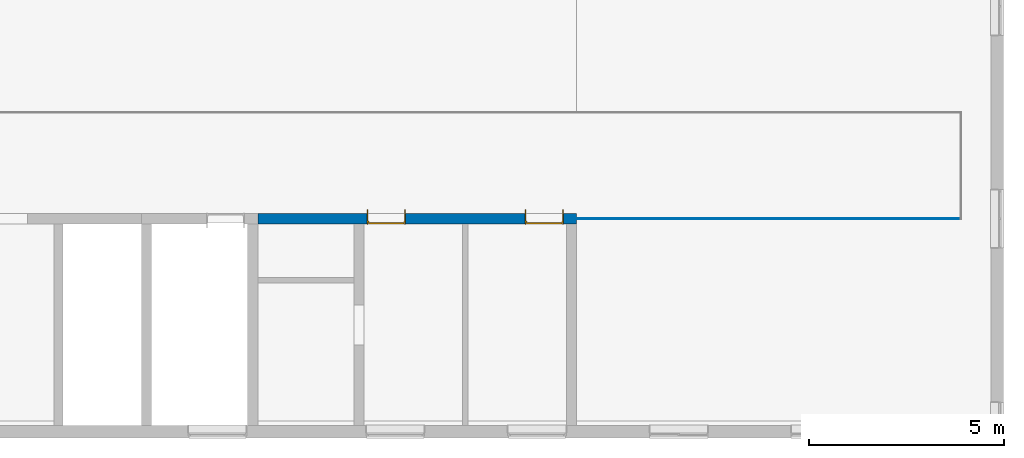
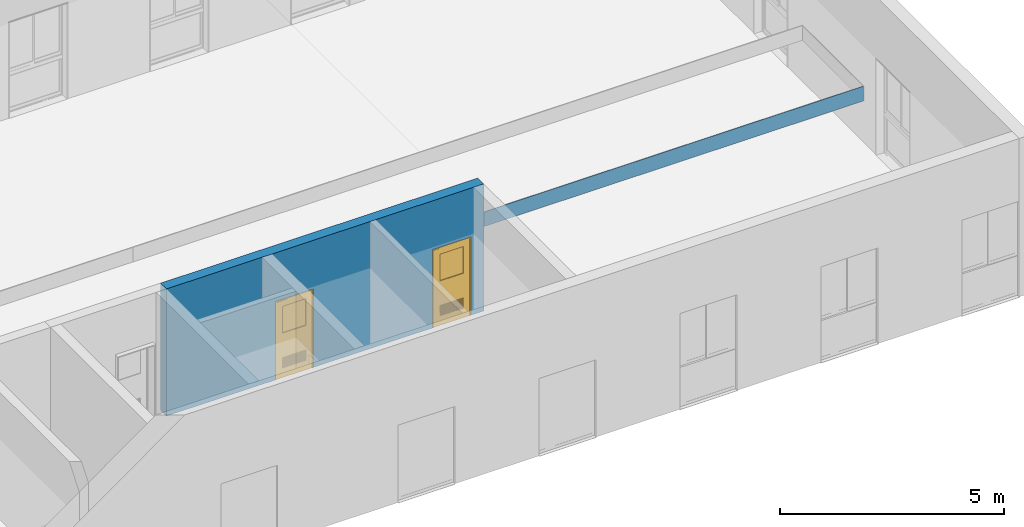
# One storey, part 9 of 11: 2 doors, 2 walls, 2 openings.
"""IFC4X3 building model written with IfcOpenShell, lengths in millimetres."""

import ifcopenshell
import ifcopenshell.guid

model = None  # the IFC model being written
_history = None  # IfcOwnerHistory: only IFC2X3 demands one
_inside = {}  # id of a spatial element -> (the spatial element, [elements in it])
_under = {}  # id of a project, library or spatial element -> (it, [spatial elements below it])
_declared = {}  # id of a project -> (the project, [libraries it declares])
_typed = {}  # id of a type object -> (the type object, [elements of that type])
_made_of = {}  # id of a material, layer set ... -> (it, [elements and type objects made of it])


def new_model(schema):
    """Start an empty IFC model of exactly this schema.

    Asked for "IFC4X3", IfcOpenShell would pick the latest addendum, in which some entities
    have other attributes; the version numbers below select the first issue.
    IFC2X3 requires an IfcOwnerHistory on every rooted entity: one is made here for all.
    """
    global model, _history
    if schema == "IFC4X3":
        model = ifcopenshell.file(schema_version=(4, 3, 0, 0))
    else:
        model = ifcopenshell.file(schema=schema)
    _inside.clear()
    _under.clear()
    _declared.clear()
    _typed.clear()
    _made_of.clear()
    _history = None
    if model.schema == "IFC2X3":
        org = make("IfcOrganization", Name="unknown")
        user = make(
            "IfcPersonAndOrganization",
            ThePerson=make("IfcPerson", FamilyName="unknown"),
            TheOrganization=org,
        )
        app = make(
            "IfcApplication",
            ApplicationDeveloper=org,
            Version="unknown",
            ApplicationFullName="unknown",
            ApplicationIdentifier="unknown",
        )
        _history = make(
            "IfcOwnerHistory",
            OwningUser=user,
            OwningApplication=app,
            ChangeAction="ADDED",
            CreationDate=0,
        )
    return model


def make(cls, **values):
    """One entity of the class cls with the attributes given. An attribute that is None is left unset."""
    return model.create_entity(
        cls, **{name: value for name, value in values.items() if value is not None}
    )


def entity(cls, *values):
    """Any entity or typed value of the class cls, its attributes in the order of the schema. None: left unset."""
    e = model.create_entity(cls)
    for i, value in enumerate(values):
        if value is not None:
            e[i] = value
    return e


def rooted(cls, **values):
    """An entity with a GlobalId (a new one), such as an element, a storey or a relation."""
    return make(cls, GlobalId=ifcopenshell.guid.new(), OwnerHistory=_history, **values)


def si_unit(unit_type, name, prefix=None):
    """IfcSIUnit, for example si_unit("LENGTHUNIT", "METRE", prefix="MILLI")."""
    return make("IfcSIUnit", UnitType=unit_type, Prefix=prefix, Name=name)


def converted_unit(unit_type, name, factor, base, dimensions=None, offset=None):
    """IfcConversionBasedUnit, such as the inch: factor (a typed value) times the base unit."""
    return make(
        "IfcConversionBasedUnit"
        if offset is None
        else "IfcConversionBasedUnitWithOffset",
        ConversionOffset=offset,
        Dimensions=None
        if dimensions is None
        else entity("IfcDimensionalExponents", *dimensions),
        UnitType=unit_type,
        Name=name,
        ConversionFactor=make(
            "IfcMeasureWithUnit", ValueComponent=factor, UnitComponent=base
        ),
    )


def derived_unit(unit_type, elements):
    """IfcDerivedUnit: a product of units, each with its exponent."""
    return make(
        "IfcDerivedUnit",
        Elements=[
            make("IfcDerivedUnitElement", Unit=unit, Exponent=power)
            for unit, power in elements
        ],
        UnitType=unit_type,
    )


def assignment(units):
    """IfcUnitAssignment: the units of a project."""
    return None if units is None else make("IfcUnitAssignment", Units=units)


def point(xyz):
    """IfcCartesianPoint."""
    return None if xyz is None else make("IfcCartesianPoint", Coordinates=xyz)


def direction(xyz):
    """IfcDirection."""
    return None if xyz is None else make("IfcDirection", DirectionRatios=xyz)


def frame(location, z_axis=None, x_axis=None):
    """IfcAxis2Placement3D, a coordinate frame: its origin and axes. An axis left out is left unset."""
    return make(
        "IfcAxis2Placement3D",
        Location=point(location),
        Axis=direction(z_axis),
        RefDirection=direction(x_axis),
    )


def frame_2d(location, x_axis=None):
    """IfcAxis2Placement2D, a coordinate frame in the plane: its origin and x axis."""
    return make(
        "IfcAxis2Placement2D", Location=point(location), RefDirection=direction(x_axis)
    )


def origin():
    """The frame at (0, 0, 0) with its axes left unset."""
    return frame((0.0, 0.0, 0.0))


def place(relative_to, where):
    """IfcLocalPlacement: puts the frame where relative to a parent placement (None: the world)."""
    return make(
        "IfcLocalPlacement", PlacementRelTo=relative_to, RelativePlacement=where
    )


def context(
    kind, dimensions, precision=None, world=None, true_north=None, identifier=None
):
    """IfcGeometricRepresentationContext, for example the 3D "Model" context."""
    return make(
        "IfcGeometricRepresentationContext",
        ContextIdentifier=identifier,
        ContextType=kind,
        CoordinateSpaceDimension=dimensions,
        Precision=precision,
        WorldCoordinateSystem=world,
        TrueNorth=true_north,
    )


def subcontext(parent, identifier, kind, view, scale=None):
    """IfcGeometricRepresentationSubContext, for example "Body" below "Model"."""
    return make(
        "IfcGeometricRepresentationSubContext",
        ContextIdentifier=identifier,
        ContextType=kind,
        ParentContext=parent,
        TargetScale=scale,
        TargetView=view,
    )


def project(units=None, contexts=None):
    """IfcProject with its units and contexts."""
    return rooted(
        "IfcProject",
        Name="project",
        RepresentationContexts=contexts,
        UnitsInContext=assignment(units),
    )


def spatial(cls, under=None, at=None, **own):
    """A site, building, storey or space (cls), placed at a placement, below another one or the project."""
    s = rooted(cls, ObjectPlacement=at, **own)
    if under is not None:
        _under.setdefault(under.id(), (under, []))[1].append(s)
    return s


def profile(cls, at=None, kind="AREA", **sizes):
    """A parametric profile (cls). Its sizes go by their IFC names, for example OverallWidth=200.0."""
    return make(cls, ProfileType=kind, Position=at, **sizes)


def rectangle(**sizes):
    """IfcRectangleProfileDef."""
    return profile("IfcRectangleProfileDef", **sizes)


def extrude(swept, where, along, depth):
    """IfcExtrudedAreaSolid: the profile swept, set in the frame where, extruded along a direction by depth."""
    return make(
        "IfcExtrudedAreaSolid",
        SweptArea=swept,
        Position=where,
        ExtrudedDirection=direction(along),
        Depth=depth,
    )


def faces_of(points, faces, orient=None, outer=None):
    """IfcFace entities. A face is a list of loops; a loop is a list of indices into points, from 0.

    orient and outer hold one flag for each loop. By default every Orientation is true, the
    first loop of a face is its IfcFaceOuterBound and the others are IfcFaceBound.
    """
    made = []
    for i, loops in enumerate(faces):
        bounds = []
        for j, loop in enumerate(loops):
            is_outer = j == 0 if outer is None else outer[i][j]
            bounds.append(
                make(
                    "IfcFaceOuterBound" if is_outer else "IfcFaceBound",
                    Bound=make("IfcPolyLoop", Polygon=[points[k] for k in loop]),
                    Orientation=True if orient is None else orient[i][j],
                )
            )
        made.append(make("IfcFace", Bounds=bounds))
    return made


def faceted_brep(points, faces, orient=None, outer=None, voids=None):
    """IfcFacetedBrep: a solid bounded by flat faces; with voids (closed shells), ...WithVoids."""
    shared = [point(p) for p in points]
    hull = make("IfcClosedShell", CfsFaces=faces_of(shared, faces, orient, outer))
    if voids is None:
        return make("IfcFacetedBrep", Outer=hull)
    return make(
        "IfcFacetedBrepWithVoids",
        Outer=hull,
        Voids=[
            make(cls, CfsFaces=faces_of(shared, fs, o, b)) for cls, fs, o, b in voids
        ],
    )


def shape(context_of_items, identifier, shape_type, items):
    """IfcShapeRepresentation: the items that make up one representation, for example the "Body"."""
    return make(
        "IfcShapeRepresentation",
        ContextOfItems=context_of_items,
        RepresentationIdentifier=identifier,
        RepresentationType=shape_type,
        Items=items,
    )


def source(mapping_origin, context_of_items, identifier, shape_type, items):
    """IfcRepresentationMap: a shape defined once, which mapped items show again and again."""
    return make(
        "IfcRepresentationMap",
        MappingOrigin=mapping_origin,
        MappedRepresentation=shape(context_of_items, identifier, shape_type, items),
    )


def transform(
    local_origin,
    x_axis=None,
    y_axis=None,
    z_axis=None,
    scale=None,
    scale2=None,
    scale3=None,
    uniform=True,
):
    """IfcCartesianTransformationOperator3D, or its non-uniform kind. x_axis, y_axis, z_axis: its Axis1, 2, 3."""
    if uniform:
        return make(
            "IfcCartesianTransformationOperator3D",
            Axis1=direction(x_axis),
            Axis2=direction(y_axis),
            LocalOrigin=point(local_origin),
            Scale=scale,
            Axis3=direction(z_axis),
        )
    return make(
        "IfcCartesianTransformationOperator3DnonUniform",
        Axis1=direction(x_axis),
        Axis2=direction(y_axis),
        LocalOrigin=point(local_origin),
        Scale=scale,
        Axis3=direction(z_axis),
        Scale2=scale2,
        Scale3=scale3,
    )


def mapped(mapping_source, mapping_target):
    """IfcMappedItem: shows the shape of a source again, moved by a transform."""
    return make(
        "IfcMappedItem", MappingSource=mapping_source, MappingTarget=mapping_target
    )


def material(Name=None, Category=None):
    """IfcMaterial."""
    return make("IfcMaterial", Name=Name, Category=Category)


def layer(
    of_material, thickness, ventilated=None, Name=None, Category=None, Priority=None
):
    """IfcMaterialLayer: one layer of a wall or slab, of a material (None: an air gap)."""
    return make(
        "IfcMaterialLayer",
        Material=of_material,
        LayerThickness=thickness,
        IsVentilated=ventilated,
        Name=Name,
        Category=Category,
        Priority=Priority,
    )


def layer_set(layers, Name=None):
    """IfcMaterialLayerSet."""
    return make("IfcMaterialLayerSet", MaterialLayers=layers, LayerSetName=Name)


def constituent(of_material, Name=None, Category=None, fraction=None):
    """IfcMaterialConstituent: one of the materials an element consists of."""
    return make(
        "IfcMaterialConstituent",
        Name=Name,
        Material=of_material,
        Fraction=fraction,
        Category=Category,
    )


def constituent_set(constituents=None, Name=None):
    """IfcMaterialConstituentSet."""
    return make(
        "IfcMaterialConstituentSet", Name=Name, MaterialConstituents=constituents
    )


def made_of(thing, what):
    """Note that an element or type object is made of a material, layer set ...; save() writes the relation."""
    if what is not None:
        _made_of.setdefault(what.id(), (what, []))[1].append(thing)
    return thing


def type_object(cls, material=None, **own):
    """A type object (cls), such as IfcWallType, which elements share."""
    return made_of(rooted(cls, **own), material)


def type_shapes(of_type, sources):
    """Give a type object the sources (RepresentationMaps) that its elements show as mapped items."""
    of_type.RepresentationMaps = sources


def element(
    cls,
    number,
    at=None,
    inside=None,
    cuts=None,
    type_object=None,
    material=None,
    context=None,
    identifier="Body",
    shape_type=None,
    held_by="IfcProductDefinitionShape",
    body=None,
    shapes=None,
    **own,
):
    """One element of the class cls, such as IfcWall. Its Tag is "e" and its number.

    at: its placement. inside: the storey or other place that contains it. cuts: it is an
    opening in that element (IfcRelVoidsElement). A single representation is given by context,
    identifier, shape_type and body (its items); several are given by shapes. held_by: the class
    of the entity that holds the representations. save() writes the other relations.
    """
    e = rooted(cls, Tag="e%d" % number, ObjectPlacement=at, **own)
    if body is not None:
        shapes = [shape(context, identifier, shape_type, body)]
    if shapes is not None:
        e.Representation = make(held_by, Representations=shapes)
    if inside is not None:
        _inside.setdefault(inside.id(), (inside, []))[1].append(e)
    if cuts is not None:
        rooted(
            "IfcRelVoidsElement", RelatingBuildingElement=cuts, RelatedOpeningElement=e
        )
    if type_object is not None:
        _typed.setdefault(type_object.id(), (type_object, []))[1].append(e)
    return made_of(e, material)


def fill(opening, filler):
    """IfcRelFillsElement: the door or window that sits in an opening."""
    return rooted(
        "IfcRelFillsElement",
        RelatingOpeningElement=opening,
        RelatedBuildingElement=filler,
    )


def aggregate(whole, parts):
    """IfcRelAggregates: a whole, such as a stair, and the parts it consists of."""
    return rooted("IfcRelAggregates", RelatingObject=whole, RelatedObjects=parts)


def save(model, path):
    """Write the relations noted so far, then the file.

    IfcRelAggregates (storeys below a building ...), IfcRelContainedInSpatialStructure (elements
    in a storey), IfcRelDefinesByType, IfcRelAssociatesMaterial and IfcRelDeclares: one each for
    every whole, place, type object, material and project.
    """
    for whole, parts in _under.values():
        aggregate(whole, parts)
    for where, things in _inside.values():
        rooted(
            "IfcRelContainedInSpatialStructure",
            RelatedElements=things,
            RelatingStructure=where,
        )
    for kind, things in _typed.values():
        rooted("IfcRelDefinesByType", RelatedObjects=things, RelatingType=kind)
    for what, things in _made_of.values():
        rooted("IfcRelAssociatesMaterial", RelatedObjects=things, RelatingMaterial=what)
    for by, libraries in _declared.values():
        rooted("IfcRelDeclares", RelatingContext=by, RelatedDefinitions=libraries)
    model.write(path)


model = new_model("IFC4X3")

# Units and contexts
model_context = context("Model", 3, precision=0.01, world=origin(), true_north=direction((6.12303176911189e-17, 1.0)))
body_context = subcontext(model_context, "Body", "Model", "MODEL_VIEW")
ifc_project = project(units=[si_unit("LENGTHUNIT", "METRE", prefix="MILLI"), si_unit("AREAUNIT", "SQUARE_METRE"), si_unit("VOLUMEUNIT", "CUBIC_METRE"), converted_unit("PLANEANGLEUNIT", "DEGREE", entity("IfcPlaneAngleMeasure", 0.0174532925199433), si_unit("PLANEANGLEUNIT", "RADIAN"), dimensions=[0, 0, 0, 0, 0, 0, 0]), si_unit("MASSUNIT", "GRAM", prefix="KILO"), derived_unit("MASSDENSITYUNIT", [(si_unit("MASSUNIT", "GRAM", prefix="KILO"), 1), (si_unit("LENGTHUNIT", "METRE"), -3)]), derived_unit("IONCONCENTRATIONUNIT", [(si_unit("MASSUNIT", "GRAM", prefix="KILO"), 1), (si_unit("LENGTHUNIT", "METRE"), -3)]), derived_unit("MOMENTOFINERTIAUNIT", [(si_unit("LENGTHUNIT", "METRE"), 4)]), si_unit("TIMEUNIT", "SECOND"), si_unit("FREQUENCYUNIT", "HERTZ"), si_unit("THERMODYNAMICTEMPERATUREUNIT", "DEGREE_CELSIUS"), derived_unit("THERMALTRANSMITTANCEUNIT", [(si_unit("MASSUNIT", "GRAM", prefix="KILO"), 1), (si_unit("THERMODYNAMICTEMPERATUREUNIT", "KELVIN"), -1), (si_unit("TIMEUNIT", "SECOND"), -3)]), derived_unit("THERMALCONDUCTANCEUNIT", [(si_unit("MASSUNIT", "GRAM", prefix="KILO"), 1), (si_unit("THERMODYNAMICTEMPERATUREUNIT", "KELVIN"), -1), (si_unit("TIMEUNIT", "SECOND"), -3), (si_unit("LENGTHUNIT", "METRE"), 1)]), derived_unit("VOLUMETRICFLOWRATEUNIT", [(si_unit("LENGTHUNIT", "METRE", prefix="DECI"), 3), (si_unit("TIMEUNIT", "SECOND"), -1)]), derived_unit("MASSFLOWRATEUNIT", [(si_unit("MASSUNIT", "GRAM", prefix="KILO"), 1), (si_unit("TIMEUNIT", "SECOND"), -1)]), derived_unit("ROTATIONALFREQUENCYUNIT", [(si_unit("TIMEUNIT", "SECOND"), -1)]), si_unit("ELECTRICCURRENTUNIT", "AMPERE"), si_unit("ELECTRICVOLTAGEUNIT", "VOLT"), si_unit("POWERUNIT", "WATT"), si_unit("FORCEUNIT", "NEWTON", prefix="KILO"), si_unit("ILLUMINANCEUNIT", "LUX"), si_unit("LUMINOUSFLUXUNIT", "LUMEN"), si_unit("LUMINOUSINTENSITYUNIT", "CANDELA"), si_unit("ENERGYUNIT", "JOULE"), derived_unit("USERDEFINED", [(si_unit("MASSUNIT", "GRAM", prefix="KILO"), -1), (si_unit("LENGTHUNIT", "METRE"), -2), (si_unit("TIMEUNIT", "SECOND"), 3), (si_unit("LUMINOUSFLUXUNIT", "LUMEN"), 1)]), derived_unit("USERDEFINED", [(si_unit("MASSUNIT", "GRAM", prefix="KILO"), 1), (si_unit("TIMEUNIT", "SECOND"), -3), (si_unit("LENGTHUNIT", "METRE"), 3), (si_unit("ELECTRICCURRENTUNIT", "AMPERE"), -2)]), derived_unit("SOUNDPOWERUNIT", [(si_unit("MASSUNIT", "GRAM", prefix="KILO"), 1), (si_unit("TIMEUNIT", "SECOND"), -3), (si_unit("LENGTHUNIT", "METRE"), 2)]), derived_unit("SOUNDPRESSUREUNIT", [(si_unit("MASSUNIT", "GRAM", prefix="KILO"), 1), (si_unit("LENGTHUNIT", "METRE"), -1), (si_unit("TIMEUNIT", "SECOND"), -2)]), derived_unit("LINEARVELOCITYUNIT", [(si_unit("LENGTHUNIT", "METRE"), 1), (si_unit("TIMEUNIT", "SECOND"), -1)]), si_unit("PRESSUREUNIT", "PASCAL"), derived_unit("USERDEFINED", [(si_unit("MASSUNIT", "GRAM", prefix="KILO"), 1), (si_unit("LENGTHUNIT", "METRE"), -2), (si_unit("TIMEUNIT", "SECOND"), -2)]), derived_unit("LINEARFORCEUNIT", [(si_unit("MASSUNIT", "GRAM", prefix="KILO"), 1), (si_unit("TIMEUNIT", "SECOND"), -2)]), derived_unit("PLANARFORCEUNIT", [(si_unit("MASSUNIT", "GRAM", prefix="KILO"), 1), (si_unit("LENGTHUNIT", "METRE"), -1), (si_unit("TIMEUNIT", "SECOND"), -2)]), derived_unit("SPECIFICHEATCAPACITYUNIT", [(si_unit("THERMODYNAMICTEMPERATUREUNIT", "KELVIN"), -1), (si_unit("LENGTHUNIT", "METRE"), 2), (si_unit("TIMEUNIT", "SECOND"), -2)]), derived_unit("HEATFLUXDENSITYUNIT", [(si_unit("MASSUNIT", "GRAM", prefix="KILO"), 1), (si_unit("TIMEUNIT", "SECOND"), -3)]), derived_unit("HEATINGVALUEUNIT", [(si_unit("LENGTHUNIT", "METRE"), 2), (si_unit("TIMEUNIT", "SECOND"), -2)]), derived_unit("VAPORPERMEABILITYUNIT", [(si_unit("LENGTHUNIT", "METRE"), -1), (si_unit("TIMEUNIT", "SECOND"), 1)]), derived_unit("DYNAMICVISCOSITYUNIT", [(si_unit("MASSUNIT", "GRAM", prefix="KILO"), 1), (si_unit("TIMEUNIT", "SECOND"), -1), (si_unit("LENGTHUNIT", "METRE"), -1)]), derived_unit("THERMALEXPANSIONCOEFFICIENTUNIT", [(si_unit("THERMODYNAMICTEMPERATUREUNIT", "KELVIN"), -1)]), derived_unit("MODULUSOFELASTICITYUNIT", [(si_unit("MASSUNIT", "GRAM", prefix="KILO"), 1), (si_unit("LENGTHUNIT", "METRE"), -1), (si_unit("TIMEUNIT", "SECOND"), -2)]), derived_unit("ISOTHERMALMOISTURECAPACITYUNIT", [(si_unit("MASSUNIT", "GRAM", prefix="KILO"), -1), (si_unit("LENGTHUNIT", "METRE"), 3)]), derived_unit("MOISTUREDIFFUSIVITYUNIT", [(si_unit("TIMEUNIT", "SECOND"), -1), (si_unit("LENGTHUNIT", "METRE"), 2)]), derived_unit("AREADENSITYUNIT", [(si_unit("MASSUNIT", "GRAM", prefix="KILO"), 1), (si_unit("LENGTHUNIT", "METRE"), 2)]), derived_unit("MASSPERLENGTHUNIT", [(si_unit("MASSUNIT", "GRAM", prefix="KILO"), 1), (si_unit("LENGTHUNIT", "METRE"), -1)]), derived_unit("THERMALRESISTANCEUNIT", [(si_unit("MASSUNIT", "GRAM", prefix="KILO"), -1), (si_unit("TIMEUNIT", "SECOND"), 3), (si_unit("THERMODYNAMICTEMPERATUREUNIT", "KELVIN"), 1)]), derived_unit("ACCELERATIONUNIT", [(si_unit("LENGTHUNIT", "METRE"), 1), (si_unit("TIMEUNIT", "SECOND"), -2)]), derived_unit("ANGULARVELOCITYUNIT", [(si_unit("TIMEUNIT", "SECOND"), -1), (si_unit("PLANEANGLEUNIT", "RADIAN"), 1)]), derived_unit("LINEARSTIFFNESSUNIT", [(si_unit("MASSUNIT", "GRAM", prefix="KILO"), 1), (si_unit("TIMEUNIT", "SECOND"), -2)]), derived_unit("WARPINGCONSTANTUNIT", [(si_unit("LENGTHUNIT", "METRE"), 6)]), derived_unit("LINEARMOMENTUNIT", [(si_unit("MASSUNIT", "GRAM", prefix="KILO"), 1), (si_unit("LENGTHUNIT", "METRE"), 1), (si_unit("TIMEUNIT", "SECOND"), -2)]), derived_unit("TORQUEUNIT", [(si_unit("MASSUNIT", "GRAM", prefix="KILO"), 1), (si_unit("LENGTHUNIT", "METRE"), 2), (si_unit("TIMEUNIT", "SECOND"), -2)])], contexts=[model_context])

# Site, building, storey
site_placement = place(None, origin())
site = spatial("IfcSite", under=ifc_project, at=site_placement, Name="Default", CompositionType="ELEMENT")
building_placement = place(site_placement, origin())
building = spatial("IfcBuilding", under=site, at=building_placement, Name="事務所ビル", CompositionType="ELEMENT")
storey_placement = place(building_placement, frame((0.0, 0.0, 8000.0)))
storey = spatial("IfcBuildingStorey", under=building, at=storey_placement, Name="3FL", CompositionType="ELEMENT", Elevation=8000.0)

# Wall, openings, doors
ifc_material_1 = material(Name="せっこうボード", Category="一般")
ifc_layer_1 = layer(ifc_material_1, 15.0, Name="せっこうボード", Category="一般")
ifc_material_2 = material(Name="合板", Category="一般")
ifc_layer_2 = layer(ifc_material_2, 12.0, Name="合板", Category="一般")
ifc_material_3 = material(Name="天然木材", Category="一般")
ifc_layer_3 = layer(ifc_material_3, 210.0, Name="天然木材", Category="一般")
ifc_layer_4 = layer(ifc_material_2, 12.0, Name="合板", Category="一般")
ifc_layer_5 = layer(ifc_material_1, 15.0, Name="せっこうボード", Category="一般")
ifc_layer_set_1 = layer_set([ifc_layer_1, ifc_layer_2, ifc_layer_3, ifc_layer_4, ifc_layer_5], Name="標準壁:GB-R15_構造用合板12_木210_構造用合板12_GB-R15")
wall_type_1 = type_object("IfcWallType", Name="標準壁:GB-R15_構造用合板12_木210_構造用合板12_GB-R15", PredefinedType="STANDARD", material=ifc_layer_set_1)
wall_1_placement = place(storey_placement, frame((30162.0, 5460.0, 0.0)))
wall_1 = element("IfcWall", 1, at=wall_1_placement, inside=storey, type_object=wall_type_1, material=ifc_layer_set_1, Name="標準壁:GB-R15_構造用合板12_木210_構造用合板12_GB-R15", ObjectType="標準壁:GB-R15_構造用合板12_木210_構造用合板12_GB-R15", PredefinedType="NOTDEFINED", context=body_context, shape_type="SweptSolid", body=[
    extrude(rectangle(XDim=8189.99999999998, YDim=264.000000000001, at=frame_2d((4094.99999999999, 1.56319401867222e-13), x_axis=(-1.0, 0.0))), origin(), (0.0, 0.0, 1.0), 3470.0),
])
opening_1_placement = place(wall_1_placement, frame((3788.0, 132.0, 0.0)))
opening_1 = element("IfcOpeningElement", 2, at=opening_1_placement, cuts=wall_1, Name="鋼製_一般枠_片開き 1:鋼製_一般枠_片開き 1:1", PredefinedType="OPENING", context=body_context, shape_type="SweptSolid", body=[
    extrude(rectangle(XDim=2140.0, YDim=979.999999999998, at=frame_2d((1070.0, 489.999999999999), x_axis=(-1.0, 0.0))), frame((0.0, 0.0, 0.0), z_axis=(0.0, -1.0, 0.0), x_axis=(0.0, 0.0, 1.0)), (0.0, 0.0, 1.0), 264.0),
])
opening_2_placement = place(wall_1_placement, frame((7848.0, 132.0, 0.0)))
opening_2 = element("IfcOpeningElement", 3, at=opening_2_placement, cuts=wall_1, Name="鋼製_一般枠_片開き 1:鋼製_一般枠_片開き 1:1", PredefinedType="OPENING", context=body_context, shape_type="SweptSolid", body=[
    extrude(rectangle(XDim=2140.0, YDim=979.999999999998, at=frame_2d((1070.0, 489.999999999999), x_axis=(-1.0, 0.0))), frame((0.0, 0.0, 0.0), z_axis=(0.0, -1.0, 0.0), x_axis=(0.0, 0.0, 1.0)), (0.0, 0.0, 1.0), 264.0),
])
ifc_material_4 = material(Name="金属 - アルミニウム", Category="未設定")
ifc_constituent_1 = constituent(ifc_material_4, Name="金属 - アルミニウム", Category="未設定")
ifc_material_5 = material(Name="塗装 - 白", Category="未設定")
ifc_constituent_2 = constituent(ifc_material_5, Name="塗装 - 白", Category="未設定")
ifc_material_6 = material(Name="ガラス", Category="ガラス")
ifc_constituent_3 = constituent(ifc_material_6, Name="ガラス", Category="ガラス")
ifc_constituent_set_1 = constituent_set(constituents=[ifc_constituent_1, ifc_constituent_2, ifc_constituent_3])
ifc_constituent_4 = constituent(ifc_material_4, Name="金属 - アルミニウム", Category="未設定")
ifc_constituent_5 = constituent(ifc_material_5, Name="パネル", Category="未設定")
ifc_constituent_6 = constituent(ifc_material_6, Name="ガラス", Category="ガラス")
ifc_constituent_7 = constituent(ifc_material_4, Name="フレーム/マリオン", Category="未設定")
ifc_constituent_set_2 = constituent_set(constituents=[ifc_constituent_4, ifc_constituent_5, ifc_constituent_6, ifc_constituent_7])
door_type_1 = type_object("IfcDoorType", Name="鋼製_一般枠_片開き 1:鋼製_一般枠_片開き 1", OperationType="SINGLE_SWING_LEFT", ParameterTakesPrecedence=False, PredefinedType="DOOR", material=ifc_constituent_set_2)
shared_shape_1 = source(origin(), body_context, "Body", "Brep", [
    faceted_brep([(790.0, 269.0, 493.333333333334), (790.0, 269.0, 498.333333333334), (790.0, 239.0, 513.333333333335), (790.0, 229.0, 508.333333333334), (790.0, 229.0, 503.333333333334), (790.0, 239.0, 508.333333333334), (190.0, 269.0, 493.333333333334), (190.0, 239.0, 508.333333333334), (190.0, 229.0, 503.333333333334), (190.0, 229.0, 508.333333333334), (190.0, 239.0, 513.333333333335), (190.0, 269.0, 498.333333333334)], [[[0, 1, 2, 3, 4, 5]], [[6, 7, 8, 9, 10, 11]], [[5, 7, 6, 0]], [[4, 8, 7, 5]], [[3, 9, 8, 4]], [[2, 10, 9, 3]], [[1, 11, 10, 2]], [[0, 6, 11, 1]]]),
    faceted_brep([(790.0, 269.0, 466.666666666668), (790.0, 269.0, 471.666666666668), (790.0, 239.0, 486.666666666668), (790.0, 229.0, 481.666666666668), (790.0, 229.0, 476.666666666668), (790.0, 239.0, 481.666666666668), (190.0, 269.0, 466.666666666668), (190.0, 239.0, 481.666666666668), (190.0, 229.0, 476.666666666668), (190.0, 229.0, 481.666666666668), (190.0, 239.0, 486.666666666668), (190.0, 269.0, 471.666666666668)], [[[0, 1, 2, 3, 4, 5]], [[6, 7, 8, 9, 10, 11]], [[5, 7, 6, 0]], [[4, 8, 7, 5]], [[3, 9, 8, 4]], [[2, 10, 9, 3]], [[1, 11, 10, 2]], [[0, 6, 11, 1]]]),
    faceted_brep([(790.0, 269.0, 440.0), (790.0, 269.0, 445.0), (790.0, 239.0, 460.0), (790.0, 229.0, 455.0), (790.0, 229.0, 450.0), (790.0, 239.0, 455.0), (190.0, 269.0, 440.0), (190.0, 239.0, 455.0), (190.0, 229.0, 450.0), (190.0, 229.0, 455.0), (190.0, 239.0, 460.0), (190.0, 269.0, 445.0)], [[[0, 1, 2, 3, 4, 5]], [[6, 7, 8, 9, 10, 11]], [[5, 7, 6, 0]], [[4, 8, 7, 5]], [[3, 9, 8, 4]], [[2, 10, 9, 3]], [[1, 11, 10, 2]], [[0, 6, 11, 1]]]),
    faceted_brep([(790.0, 269.0, 413.333333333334), (790.0, 269.0, 418.333333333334), (790.0, 239.0, 433.333333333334), (790.0, 229.0, 428.333333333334), (790.0, 229.0, 423.333333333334), (790.0, 239.0, 428.333333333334), (190.0, 269.0, 413.333333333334), (190.0, 239.0, 428.333333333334), (190.0, 229.0, 423.333333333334), (190.0, 229.0, 428.333333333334), (190.0, 239.0, 433.333333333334), (190.0, 269.0, 418.333333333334)], [[[0, 1, 2, 3, 4, 5]], [[6, 7, 8, 9, 10, 11]], [[5, 7, 6, 0]], [[4, 8, 7, 5]], [[3, 9, 8, 4]], [[2, 10, 9, 3]], [[1, 11, 10, 2]], [[0, 6, 11, 1]]]),
    faceted_brep([(790.0, 269.0, 386.666666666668), (790.0, 269.0, 391.666666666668), (790.0, 239.0, 406.666666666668), (790.0, 229.0, 401.666666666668), (790.0, 229.0, 396.666666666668), (790.0, 239.0, 401.666666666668), (190.0, 269.0, 386.666666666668), (190.0, 239.0, 401.666666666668), (190.0, 229.0, 396.666666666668), (190.0, 229.0, 401.666666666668), (190.0, 239.0, 406.666666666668), (190.0, 269.0, 391.666666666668)], [[[0, 1, 2, 3, 4, 5]], [[6, 7, 8, 9, 10, 11]], [[5, 7, 6, 0]], [[4, 8, 7, 5]], [[3, 9, 8, 4]], [[2, 10, 9, 3]], [[1, 11, 10, 2]], [[0, 6, 11, 1]]]),
    faceted_brep([(790.0, 269.0, 360.0), (790.0, 269.0, 365.0), (790.0, 239.0, 380.0), (790.0, 229.0, 375.0), (790.0, 229.0, 370.0), (790.0, 239.0, 375.0), (190.0, 269.0, 360.0), (190.0, 239.0, 375.0), (190.0, 229.0, 370.0), (190.0, 229.0, 375.0), (190.0, 239.0, 380.0), (190.0, 269.0, 365.0)], [[[0, 1, 2, 3, 4, 5]], [[6, 7, 8, 9, 10, 11]], [[5, 7, 6, 0]], [[4, 8, 7, 5]], [[3, 9, 8, 4]], [[2, 10, 9, 3]], [[1, 11, 10, 2]], [[0, 6, 11, 1]]]),
    faceted_brep([(790.0, 269.0, 333.333333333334), (790.0, 269.0, 338.333333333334), (790.0, 239.0, 353.333333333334), (790.0, 229.0, 348.333333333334), (790.0, 229.0, 343.333333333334), (790.0, 239.0, 348.333333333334), (190.0, 269.0, 333.333333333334), (190.0, 239.0, 348.333333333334), (190.0, 229.0, 343.333333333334), (190.0, 229.0, 348.333333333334), (190.0, 239.0, 353.333333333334), (190.0, 269.0, 338.333333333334)], [[[0, 1, 2, 3, 4, 5]], [[6, 7, 8, 9, 10, 11]], [[5, 7, 6, 0]], [[4, 8, 7, 5]], [[3, 9, 8, 4]], [[2, 10, 9, 3]], [[1, 11, 10, 2]], [[0, 6, 11, 1]]]),
    faceted_brep([(790.0, 269.0, 306.666666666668), (790.0, 269.0, 311.666666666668), (790.0, 239.0, 326.666666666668), (790.0, 229.0, 321.666666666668), (790.0, 229.0, 316.666666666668), (790.0, 239.0, 321.666666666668), (190.0, 269.0, 306.666666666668), (190.0, 239.0, 321.666666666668), (190.0, 229.0, 316.666666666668), (190.0, 229.0, 321.666666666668), (190.0, 239.0, 326.666666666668), (190.0, 269.0, 311.666666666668)], [[[0, 1, 2, 3, 4, 5]], [[6, 7, 8, 9, 10, 11]], [[5, 7, 6, 0]], [[4, 8, 7, 5]], [[3, 9, 8, 4]], [[2, 10, 9, 3]], [[1, 11, 10, 2]], [[0, 6, 11, 1]]]),
    faceted_brep([(790.0, 269.0, 520.0), (790.0, 269.0, 525.0), (790.0, 239.0, 540.0), (790.0, 229.0, 535.0), (790.0, 229.0, 530.0), (790.0, 239.0, 535.0), (190.0, 269.0, 520.0), (190.0, 239.0, 535.0), (190.0, 229.0, 530.0), (190.0, 229.0, 535.0), (190.0, 239.0, 540.0), (190.0, 269.0, 525.0)], [[[0, 1, 2, 3, 4, 5]], [[6, 7, 8, 9, 10, 11]], [[5, 7, 6, 0]], [[4, 8, 7, 5]], [[3, 9, 8, 4]], [[2, 10, 9, 3]], [[1, 11, 10, 2]], [[0, 6, 11, 1]]]),
    faceted_brep([(790.0, 269.0, 280.0), (790.0, 269.0, 285.0), (790.0, 239.0, 300.0), (790.0, 229.0, 295.0), (790.0, 229.0, 290.0), (790.0, 239.0, 295.0), (190.0, 269.0, 280.0), (190.0, 239.0, 295.0), (190.0, 229.0, 290.0), (190.0, 229.0, 295.0), (190.0, 239.0, 300.0), (190.0, 269.0, 285.0)], [[[0, 1, 2, 3, 4, 5]], [[6, 7, 8, 9, 10, 11]], [[5, 7, 6, 0]], [[4, 8, 7, 5]], [[3, 9, 8, 4]], [[2, 10, 9, 3]], [[1, 11, 10, 2]], [[0, 6, 11, 1]]]),
    faceted_brep([(800.0, 269.0, 260.0), (180.0, 269.0, 260.0), (180.0, 269.0, 560.0), (800.0, 269.0, 560.0), (790.0, 269.0, 270.0), (790.0, 269.0, 550.0), (190.0, 269.0, 550.0), (190.0, 269.0, 270.0), (800.0, 229.0, 260.0), (800.0, 229.0, 560.0), (180.0, 229.0, 560.0), (180.0, 229.0, 260.0), (790.0, 229.0, 270.0), (190.0, 229.0, 270.0), (190.0, 229.0, 550.0), (790.0, 229.0, 550.0)], [[[0, 1, 2, 3], [4, 5, 6, 7]], [[8, 9, 10, 11], [12, 13, 14, 15]], [[3, 9, 8, 0]], [[2, 10, 9, 3]], [[1, 11, 10, 2]], [[0, 8, 11, 1]], [[7, 13, 12, 4]], [[6, 14, 13, 7]], [[5, 15, 14, 6]], [[4, 12, 15, 5]]]),
    faceted_brep([(800.0, 229.0, 1210.0), (800.0, 229.0, 1960.0), (180.0, 229.0, 1960.0), (180.0, 229.0, 1210.0), (790.0, 229.0, 1220.0), (190.0, 229.0, 1220.0), (190.0, 229.0, 1950.0), (790.0, 229.0, 1950.0), (800.0, 269.0, 1210.0), (180.0, 269.0, 1210.0), (180.0, 269.0, 1960.0), (800.0, 269.0, 1960.0), (790.0, 269.0, 1220.0), (790.0, 269.0, 1950.0), (190.0, 269.0, 1950.0), (190.0, 269.0, 1220.0)], [[[0, 1, 2, 3], [4, 5, 6, 7]], [[8, 9, 10, 11], [12, 13, 14, 15]], [[1, 0, 8, 11]], [[2, 1, 11, 10]], [[3, 2, 10, 9]], [[0, 3, 9, 8]], [[5, 4, 12, 15]], [[6, 5, 15, 14]], [[7, 6, 14, 13]], [[4, 7, 13, 12]]]),
    faceted_brep([(800.0, 244.0, 1210.0), (800.0, 244.0, 1960.0), (180.0, 244.0, 1960.0), (180.0, 244.0, 1210.0), (800.0, 249.0, 1210.0), (180.0, 249.0, 1210.0), (180.0, 249.0, 1960.0), (800.0, 249.0, 1960.0)], [[[0, 1, 2, 3]], [[4, 5, 6, 7]], [[1, 0, 4, 7]], [[2, 1, 7, 6]], [[3, 2, 6, 5]], [[0, 3, 5, 4]]]),
    faceted_brep([(950.0, 229.0, 10.0), (950.0, 229.0, 2110.0), (30.0, 229.0, 2110.0), (30.0, 229.0, 10.0), (800.0, 229.0, 260.0), (180.0, 229.0, 260.0), (180.0, 229.0, 560.0), (800.0, 229.0, 560.0), (800.0, 229.0, 1210.0), (180.0, 229.0, 1210.0), (180.0, 229.0, 1960.0), (800.0, 229.0, 1960.0), (950.0, 269.0, 10.0), (30.0, 269.0, 10.0), (30.0, 269.0, 2110.0), (950.0, 269.0, 2110.0), (800.0, 269.0, 260.0), (800.0, 269.0, 560.0), (180.0, 269.0, 560.0), (180.0, 269.0, 260.0), (800.0, 269.0, 1210.0), (800.0, 269.0, 1960.0), (180.0, 269.0, 1960.0), (180.0, 269.0, 1210.0)], [[[0, 1, 2, 3], [4, 5, 6, 7], [8, 9, 10, 11]], [[12, 13, 14, 15], [16, 17, 18, 19], [20, 21, 22, 23]], [[1, 0, 12, 15]], [[2, 1, 15, 14]], [[3, 2, 14, 13]], [[0, 3, 13, 12]], [[5, 4, 16, 19]], [[6, 5, 19, 18]], [[7, 6, 18, 17]], [[4, 7, 17, 16]], [[9, 8, 20, 23]], [[10, 9, 23, 22]], [[11, 10, 22, 21]], [[8, 11, 21, 20]]]),
    faceted_brep([(955.0, 274.0, 0.0), (980.0, 274.0, 0.0), (980.0, -110.0, 0.0), (955.0, -110.0, 0.0), (955.0, 194.0, 0.0), (940.0, 194.0, 0.0), (940.0, 224.0, 0.0), (955.0, 224.0, 0.0), (955.0, 274.0, 2115.0), (25.0, 274.0, 2115.0), (25.0, 274.0, 0.0), (0.0, 274.0, 0.0), (0.0, 274.0, 2140.0), (980.0, 274.0, 2140.0), (980.0, -110.0, 2140.0), (0.0, -110.0, 2140.0), (0.0, -110.0, 0.0), (25.0, -110.0, 0.0), (25.0, -110.0, 2115.0), (955.0, -110.0, 2115.0), (955.0, 194.0, 2115.0), (25.0, 194.0, 2115.0), (25.0, 194.0, 0.0), (40.0, 194.0, 0.0), (40.0, 194.0, 2100.0), (940.0, 194.0, 2100.0), (940.0, 224.0, 2100.0), (40.0, 224.0, 2100.0), (40.0, 224.0, 0.0), (25.0, 224.0, 0.0), (25.0, 224.0, 2115.0), (955.0, 224.0, 2115.0)], [[[0, 1, 2, 3, 4, 5, 6, 7]], [[1, 0, 8, 9, 10, 11, 12, 13]], [[2, 1, 13, 14]], [[3, 2, 14, 15, 16, 17, 18, 19]], [[4, 3, 19, 20]], [[5, 4, 20, 21, 22, 23, 24, 25]], [[6, 5, 25, 26]], [[7, 6, 26, 27, 28, 29, 30, 31]], [[0, 7, 31, 8]], [[14, 13, 12, 15]], [[20, 19, 18, 21]], [[26, 25, 24, 27]], [[8, 31, 30, 9]], [[10, 29, 28, 23, 22, 17, 16, 11]], [[15, 12, 11, 16]], [[21, 18, 17, 22]], [[27, 24, 23, 28]], [[9, 30, 29, 10]]]),
])
type_shapes(door_type_1, [shared_shape_1])
door_1_placement = place(opening_2_placement, frame((0.0, 0.0, 0.0), z_axis=(0.0, 0.0, 1.0), x_axis=(-1.0, 0.0, 0.0)))
door_1 = element("IfcDoor", 4, at=door_1_placement, inside=storey, type_object=door_type_1, material=ifc_constituent_set_1, Name="鋼製_一般枠_片開き 1:鋼製_一般枠_片開き 1", ObjectType="鋼製_一般枠_片開き 1:鋼製_一般枠_片開き 1", OperationType="SINGLE_SWING_LEFT", OverallHeight=2140.0, OverallWidth=979.999999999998, PredefinedType="DOOR", context=body_context, shape_type="MappedRepresentation", body=[
    mapped(shared_shape_1, transform((0.0, 0.0, 0.0), scale=1.0)),
])
fill(opening_2, door_1)
ifc_constituent_8 = constituent(ifc_material_4, Name="金属 - アルミニウム", Category="未設定")
ifc_constituent_9 = constituent(ifc_material_5, Name="塗装 - 白", Category="未設定")
ifc_constituent_10 = constituent(ifc_material_6, Name="ガラス", Category="ガラス")
ifc_constituent_set_3 = constituent_set(constituents=[ifc_constituent_8, ifc_constituent_9, ifc_constituent_10])
ifc_constituent_11 = constituent(ifc_material_4, Name="金属 - アルミニウム", Category="未設定")
ifc_constituent_12 = constituent(ifc_material_5, Name="パネル", Category="未設定")
ifc_constituent_13 = constituent(ifc_material_6, Name="ガラス", Category="ガラス")
ifc_constituent_14 = constituent(ifc_material_4, Name="フレーム/マリオン", Category="未設定")
ifc_constituent_set_4 = constituent_set(constituents=[ifc_constituent_11, ifc_constituent_12, ifc_constituent_13, ifc_constituent_14])
door_type_2 = type_object("IfcDoorType", Name="鋼製_一般枠_片開き 1:鋼製_一般枠_片開き 1", OperationType="SINGLE_SWING_RIGHT", ParameterTakesPrecedence=False, PredefinedType="DOOR", material=ifc_constituent_set_4)
shared_shape_2 = source(origin(), body_context, "Body", "Brep", [
    faceted_brep([(190.0, 269.0, 493.333333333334), (190.0, 239.0, 508.333333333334), (190.0, 229.0, 503.333333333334), (190.0, 229.0, 508.333333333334), (190.0, 239.0, 513.333333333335), (190.0, 269.0, 498.333333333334), (790.0, 269.0, 493.333333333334), (790.0, 269.0, 498.333333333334), (790.0, 239.0, 513.333333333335), (790.0, 229.0, 508.333333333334), (790.0, 229.0, 503.333333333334), (790.0, 239.0, 508.333333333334)], [[[0, 1, 2, 3, 4, 5]], [[6, 7, 8, 9, 10, 11]], [[1, 0, 6, 11]], [[2, 1, 11, 10]], [[3, 2, 10, 9]], [[4, 3, 9, 8]], [[5, 4, 8, 7]], [[0, 5, 7, 6]]]),
    faceted_brep([(190.0, 269.0, 466.666666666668), (190.0, 239.0, 481.666666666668), (190.0, 229.0, 476.666666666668), (190.0, 229.0, 481.666666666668), (190.0, 239.0, 486.666666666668), (190.0, 269.0, 471.666666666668), (790.0, 269.0, 466.666666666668), (790.0, 269.0, 471.666666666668), (790.0, 239.0, 486.666666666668), (790.0, 229.0, 481.666666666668), (790.0, 229.0, 476.666666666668), (790.0, 239.0, 481.666666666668)], [[[0, 1, 2, 3, 4, 5]], [[6, 7, 8, 9, 10, 11]], [[1, 0, 6, 11]], [[2, 1, 11, 10]], [[3, 2, 10, 9]], [[4, 3, 9, 8]], [[5, 4, 8, 7]], [[0, 5, 7, 6]]]),
    faceted_brep([(190.0, 269.0, 440.0), (190.0, 239.0, 455.0), (190.0, 229.0, 450.0), (190.0, 229.0, 455.0), (190.0, 239.0, 460.0), (190.0, 269.0, 445.0), (790.0, 269.0, 440.0), (790.0, 269.0, 445.0), (790.0, 239.0, 460.0), (790.0, 229.0, 455.0), (790.0, 229.0, 450.0), (790.0, 239.0, 455.0)], [[[0, 1, 2, 3, 4, 5]], [[6, 7, 8, 9, 10, 11]], [[1, 0, 6, 11]], [[2, 1, 11, 10]], [[3, 2, 10, 9]], [[4, 3, 9, 8]], [[5, 4, 8, 7]], [[0, 5, 7, 6]]]),
    faceted_brep([(190.0, 269.0, 413.333333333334), (190.0, 239.0, 428.333333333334), (190.0, 229.0, 423.333333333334), (190.0, 229.0, 428.333333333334), (190.0, 239.0, 433.333333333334), (190.0, 269.0, 418.333333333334), (790.0, 269.0, 413.333333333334), (790.0, 269.0, 418.333333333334), (790.0, 239.0, 433.333333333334), (790.0, 229.0, 428.333333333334), (790.0, 229.0, 423.333333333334), (790.0, 239.0, 428.333333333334)], [[[0, 1, 2, 3, 4, 5]], [[6, 7, 8, 9, 10, 11]], [[1, 0, 6, 11]], [[2, 1, 11, 10]], [[3, 2, 10, 9]], [[4, 3, 9, 8]], [[5, 4, 8, 7]], [[0, 5, 7, 6]]]),
    faceted_brep([(190.0, 269.0, 386.666666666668), (190.0, 239.0, 401.666666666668), (190.0, 229.0, 396.666666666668), (190.0, 229.0, 401.666666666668), (190.0, 239.0, 406.666666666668), (190.0, 269.0, 391.666666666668), (790.0, 269.0, 386.666666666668), (790.0, 269.0, 391.666666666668), (790.0, 239.0, 406.666666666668), (790.0, 229.0, 401.666666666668), (790.0, 229.0, 396.666666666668), (790.0, 239.0, 401.666666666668)], [[[0, 1, 2, 3, 4, 5]], [[6, 7, 8, 9, 10, 11]], [[1, 0, 6, 11]], [[2, 1, 11, 10]], [[3, 2, 10, 9]], [[4, 3, 9, 8]], [[5, 4, 8, 7]], [[0, 5, 7, 6]]]),
    faceted_brep([(190.0, 269.0, 360.0), (190.0, 239.0, 375.0), (190.0, 229.0, 370.0), (190.0, 229.0, 375.0), (190.0, 239.0, 380.0), (190.0, 269.0, 365.0), (790.0, 269.0, 360.0), (790.0, 269.0, 365.0), (790.0, 239.0, 380.0), (790.0, 229.0, 375.0), (790.0, 229.0, 370.0), (790.0, 239.0, 375.0)], [[[0, 1, 2, 3, 4, 5]], [[6, 7, 8, 9, 10, 11]], [[1, 0, 6, 11]], [[2, 1, 11, 10]], [[3, 2, 10, 9]], [[4, 3, 9, 8]], [[5, 4, 8, 7]], [[0, 5, 7, 6]]]),
    faceted_brep([(190.0, 269.0, 333.333333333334), (190.0, 239.0, 348.333333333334), (190.0, 229.0, 343.333333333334), (190.0, 229.0, 348.333333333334), (190.0, 239.0, 353.333333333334), (190.0, 269.0, 338.333333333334), (790.0, 269.0, 333.333333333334), (790.0, 269.0, 338.333333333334), (790.0, 239.0, 353.333333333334), (790.0, 229.0, 348.333333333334), (790.0, 229.0, 343.333333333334), (790.0, 239.0, 348.333333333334)], [[[0, 1, 2, 3, 4, 5]], [[6, 7, 8, 9, 10, 11]], [[1, 0, 6, 11]], [[2, 1, 11, 10]], [[3, 2, 10, 9]], [[4, 3, 9, 8]], [[5, 4, 8, 7]], [[0, 5, 7, 6]]]),
    faceted_brep([(190.0, 269.0, 306.666666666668), (190.0, 239.0, 321.666666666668), (190.0, 229.0, 316.666666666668), (190.0, 229.0, 321.666666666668), (190.0, 239.0, 326.666666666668), (190.0, 269.0, 311.666666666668), (790.0, 269.0, 306.666666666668), (790.0, 269.0, 311.666666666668), (790.0, 239.0, 326.666666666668), (790.0, 229.0, 321.666666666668), (790.0, 229.0, 316.666666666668), (790.0, 239.0, 321.666666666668)], [[[0, 1, 2, 3, 4, 5]], [[6, 7, 8, 9, 10, 11]], [[1, 0, 6, 11]], [[2, 1, 11, 10]], [[3, 2, 10, 9]], [[4, 3, 9, 8]], [[5, 4, 8, 7]], [[0, 5, 7, 6]]]),
    faceted_brep([(190.0, 269.0, 520.0), (190.0, 239.0, 535.0), (190.0, 229.0, 530.0), (190.0, 229.0, 535.0), (190.0, 239.0, 540.0), (190.0, 269.0, 525.0), (790.0, 269.0, 520.0), (790.0, 269.0, 525.0), (790.0, 239.0, 540.0), (790.0, 229.0, 535.0), (790.0, 229.0, 530.0), (790.0, 239.0, 535.0)], [[[0, 1, 2, 3, 4, 5]], [[6, 7, 8, 9, 10, 11]], [[1, 0, 6, 11]], [[2, 1, 11, 10]], [[3, 2, 10, 9]], [[4, 3, 9, 8]], [[5, 4, 8, 7]], [[0, 5, 7, 6]]]),
    faceted_brep([(190.0, 269.0, 280.0), (190.0, 239.0, 295.0), (190.0, 229.0, 290.0), (190.0, 229.0, 295.0), (190.0, 239.0, 300.0), (190.0, 269.0, 285.0), (790.0, 269.0, 280.0), (790.0, 269.0, 285.0), (790.0, 239.0, 300.0), (790.0, 229.0, 295.0), (790.0, 229.0, 290.0), (790.0, 239.0, 295.0)], [[[0, 1, 2, 3, 4, 5]], [[6, 7, 8, 9, 10, 11]], [[1, 0, 6, 11]], [[2, 1, 11, 10]], [[3, 2, 10, 9]], [[4, 3, 9, 8]], [[5, 4, 8, 7]], [[0, 5, 7, 6]]]),
    faceted_brep([(180.0, 269.0, 260.0), (180.0, 269.0, 560.0), (800.0, 269.0, 560.0), (800.0, 269.0, 260.0), (190.0, 269.0, 270.0), (790.0, 269.0, 270.0), (790.0, 269.0, 550.0), (190.0, 269.0, 550.0), (180.0, 229.0, 260.0), (800.0, 229.0, 260.0), (800.0, 229.0, 560.0), (180.0, 229.0, 560.0), (190.0, 229.0, 270.0), (190.0, 229.0, 550.0), (790.0, 229.0, 550.0), (790.0, 229.0, 270.0)], [[[0, 1, 2, 3], [4, 5, 6, 7]], [[8, 9, 10, 11], [12, 13, 14, 15]], [[1, 0, 8, 11]], [[2, 1, 11, 10]], [[3, 2, 10, 9]], [[0, 3, 9, 8]], [[5, 4, 12, 15]], [[6, 5, 15, 14]], [[7, 6, 14, 13]], [[4, 7, 13, 12]]]),
    faceted_brep([(180.0, 229.0, 1210.0), (800.0, 229.0, 1210.0), (800.0, 229.0, 1960.0), (180.0, 229.0, 1960.0), (190.0, 229.0, 1220.0), (190.0, 229.0, 1950.0), (790.0, 229.0, 1950.0), (790.0, 229.0, 1220.0), (180.0, 269.0, 1210.0), (180.0, 269.0, 1960.0), (800.0, 269.0, 1960.0), (800.0, 269.0, 1210.0), (190.0, 269.0, 1220.0), (790.0, 269.0, 1220.0), (790.0, 269.0, 1950.0), (190.0, 269.0, 1950.0)], [[[0, 1, 2, 3], [4, 5, 6, 7]], [[8, 9, 10, 11], [12, 13, 14, 15]], [[3, 9, 8, 0]], [[2, 10, 9, 3]], [[1, 11, 10, 2]], [[0, 8, 11, 1]], [[7, 13, 12, 4]], [[6, 14, 13, 7]], [[5, 15, 14, 6]], [[4, 12, 15, 5]]]),
    faceted_brep([(180.0, 244.0, 1210.0), (800.0, 244.0, 1210.0), (800.0, 244.0, 1960.0), (180.0, 244.0, 1960.0), (180.0, 249.0, 1210.0), (180.0, 249.0, 1960.0), (800.0, 249.0, 1960.0), (800.0, 249.0, 1210.0)], [[[0, 1, 2, 3]], [[4, 5, 6, 7]], [[3, 5, 4, 0]], [[2, 6, 5, 3]], [[1, 7, 6, 2]], [[0, 4, 7, 1]]]),
    faceted_brep([(30.0, 229.0, 10.0), (950.0, 229.0, 10.0), (950.0, 229.0, 2110.0), (30.0, 229.0, 2110.0), (180.0, 229.0, 260.0), (180.0, 229.0, 560.0), (800.0, 229.0, 560.0), (800.0, 229.0, 260.0), (180.0, 229.0, 1210.0), (180.0, 229.0, 1960.0), (800.0, 229.0, 1960.0), (800.0, 229.0, 1210.0), (30.0, 269.0, 10.0), (30.0, 269.0, 2110.0), (950.0, 269.0, 2110.0), (950.0, 269.0, 10.0), (180.0, 269.0, 260.0), (800.0, 269.0, 260.0), (800.0, 269.0, 560.0), (180.0, 269.0, 560.0), (180.0, 269.0, 1210.0), (800.0, 269.0, 1210.0), (800.0, 269.0, 1960.0), (180.0, 269.0, 1960.0)], [[[0, 1, 2, 3], [4, 5, 6, 7], [8, 9, 10, 11]], [[12, 13, 14, 15], [16, 17, 18, 19], [20, 21, 22, 23]], [[3, 13, 12, 0]], [[2, 14, 13, 3]], [[1, 15, 14, 2]], [[0, 12, 15, 1]], [[7, 17, 16, 4]], [[6, 18, 17, 7]], [[5, 19, 18, 6]], [[4, 16, 19, 5]], [[11, 21, 20, 8]], [[10, 22, 21, 11]], [[9, 23, 22, 10]], [[8, 20, 23, 9]]]),
    faceted_brep([(25.0, 274.0, 0.0), (25.0, 224.0, 0.0), (40.0, 224.0, 0.0), (40.0, 194.0, 0.0), (25.0, 194.0, 0.0), (25.0, -110.0, 0.0), (0.0, -110.0, 0.0), (0.0, 274.0, 0.0), (0.0, 274.0, 2140.0), (980.0, 274.0, 2140.0), (980.0, 274.0, 0.0), (955.0, 274.0, 0.0), (955.0, 274.0, 2115.0), (25.0, 274.0, 2115.0), (0.0, -110.0, 2140.0), (25.0, -110.0, 2115.0), (955.0, -110.0, 2115.0), (955.0, -110.0, 0.0), (980.0, -110.0, 0.0), (980.0, -110.0, 2140.0), (25.0, 194.0, 2115.0), (40.0, 194.0, 2100.0), (940.0, 194.0, 2100.0), (940.0, 194.0, 0.0), (955.0, 194.0, 0.0), (955.0, 194.0, 2115.0), (40.0, 224.0, 2100.0), (25.0, 224.0, 2115.0), (955.0, 224.0, 2115.0), (955.0, 224.0, 0.0), (940.0, 224.0, 0.0), (940.0, 224.0, 2100.0)], [[[0, 1, 2, 3, 4, 5, 6, 7]], [[7, 8, 9, 10, 11, 12, 13, 0]], [[6, 14, 8, 7]], [[5, 15, 16, 17, 18, 19, 14, 6]], [[4, 20, 15, 5]], [[3, 21, 22, 23, 24, 25, 20, 4]], [[2, 26, 21, 3]], [[1, 27, 28, 29, 30, 31, 26, 2]], [[0, 13, 27, 1]], [[14, 19, 9, 8]], [[20, 25, 16, 15]], [[26, 31, 22, 21]], [[13, 12, 28, 27]], [[11, 10, 18, 17, 24, 23, 30, 29]], [[19, 18, 10, 9]], [[25, 24, 17, 16]], [[31, 30, 23, 22]], [[12, 11, 29, 28]]]),
])
type_shapes(door_type_2, [shared_shape_2])
door_2_placement = place(opening_1_placement, frame((0.0, 0.0, 0.0), z_axis=(0.0, 0.0, 1.0), x_axis=(-1.0, 0.0, 0.0)))
door_2 = element("IfcDoor", 5, at=door_2_placement, inside=storey, type_object=door_type_2, material=ifc_constituent_set_3, Name="鋼製_一般枠_片開き 1:鋼製_一般枠_片開き 1", ObjectType="鋼製_一般枠_片開き 1:鋼製_一般枠_片開き 1", OperationType="SINGLE_SWING_RIGHT", OverallHeight=2140.0, OverallWidth=979.999999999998, PredefinedType="DOOR", context=body_context, shape_type="MappedRepresentation", body=[
    mapped(shared_shape_2, transform((0.0, 0.0, 0.0), scale=1.0)),
])
fill(opening_1, door_2)

# Wall
ifc_material_7 = material(Name="<Unnamed>")
ifc_layer_6 = layer(ifc_material_7, 15.0, Name="Layer")
ifc_layer_set_2 = layer_set([ifc_layer_6], Name="標準壁:GB-R15")
wall_type_2 = type_object("IfcWallType", Name="標準壁:GB-R15", PredefinedType="STANDARD", material=ifc_layer_set_2)
wall_2_placement = place(storey_placement, frame((48222.5, 5460.0, 2200.0), z_axis=(0.0, 0.0, 1.0), x_axis=(-1.0, 0.0, 0.0)))
element("IfcWall", 6, at=wall_2_placement, inside=storey, type_object=wall_type_2, material=ifc_layer_set_2, Name="標準壁:GB-R15", ObjectType="標準壁:GB-R15", PredefinedType="NOTDEFINED", context=body_context, shape_type="SweptSolid", body=[
    extrude(rectangle(XDim=9870.49999999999, YDim=15.0000000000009, at=frame_2d((4935.24999999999, -1.24344978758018e-14), x_axis=(-1.0, 0.0))), origin(), (0.0, 0.0, 1.0), 399.999999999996),
])

save(model, "model.ifc")
